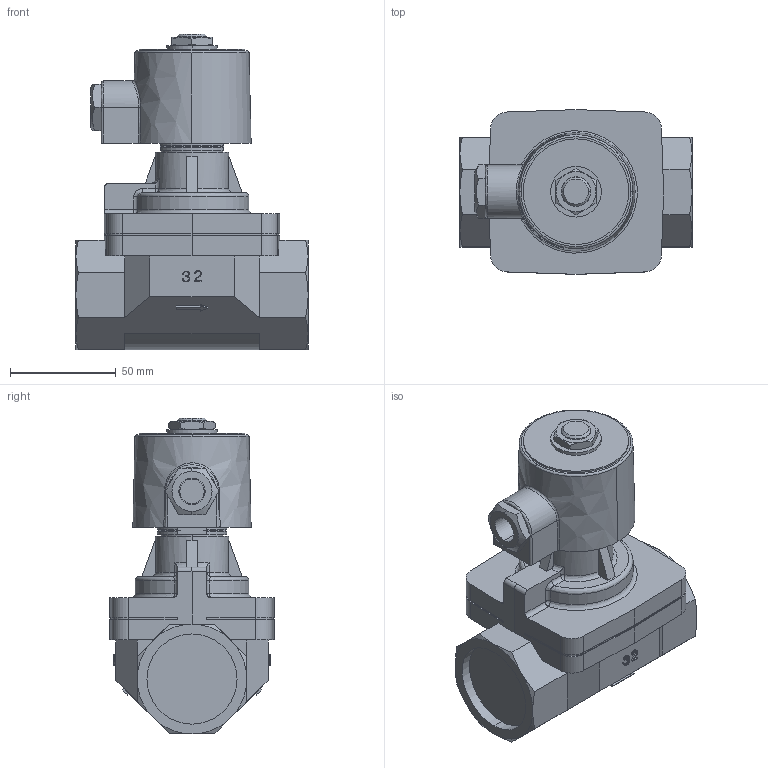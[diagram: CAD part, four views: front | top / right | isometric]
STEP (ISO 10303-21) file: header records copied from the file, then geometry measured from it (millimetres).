
FILE_DESCRIPTION( (''), '2;1');
FILE_NAME ('PC1056.13084.DP-200(32A)_1134.stp','2024-07-17T17:18:02',(''),(''),'spGate 19.8.4 (****-****-****-****)','','');
FILE_SCHEMA (('AUTOMOTIVE_DESIGN'));
Length unit declared in the file: millimetre
Products named in the file (5): Assembly; DP-200(32A)本体; パイプP32_50A; ACコイル10A; コイル六角ナット座金
Assembly tree (4 placements, depth 2):
  Assembly
    DP-200(32A)本体
    パイプP32_50A
    ACコイル10A
    コイル六角ナット座金
Bounding box: 110 x 78 x 149.6 mm (x, y, z)
Volume: 496394.5 mm3; surface area: 79226.2 mm2
Topology: 4 solids, 4 shells, 387 faces, 931 edges, 572 vertices
Faces by surface type: plane 157, bspline 121, cylinder 105, sphere 4
Entity records: 22426 total; most frequent: CARTESIAN_POINT 6666, ORIENTED_EDGE 1854, DIRECTION 1487, COLOUR_RGB 1318, PRESENTATION_STYLE_ASSIGNMENT 1318, STYLED_ITEM 1318, EDGE_CURVE 927, DRAUGHTING_PRE_DEFINED_CURVE_FONT 927
